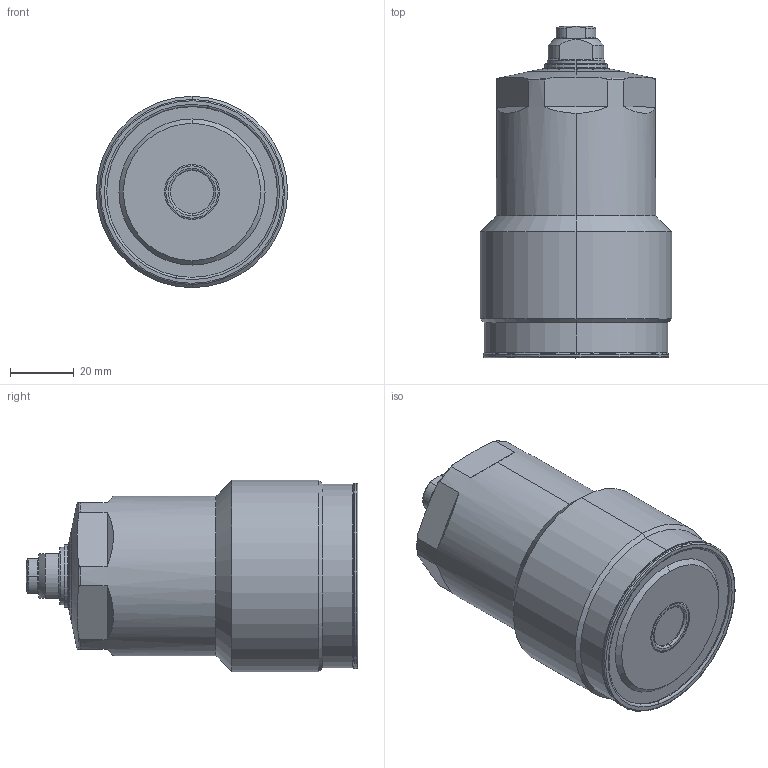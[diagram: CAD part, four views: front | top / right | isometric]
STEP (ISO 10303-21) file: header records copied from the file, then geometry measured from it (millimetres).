
FILE_DESCRIPTION(/* description */ (''),/* implementation_level */ '2;1');
FILE_NAME(/* name */ 'TNL60.stp',/* time_stamp */ '2026-02-04T14:20:00+08:00',/* author */ (''),/* organization */ (''),/* preprocessor_version */ 'ST-DEVELOPER v16.7',/* originating_system */ 'SIEMENS PLM Software NX 12.0',/* authorisation */ '');
FILE_SCHEMA (('AUTOMOTIVE_DESIGN { 1 0 10303 214 3 1 1 1 }'));
Length unit declared in the file: millimetre
Products named in the file (7): XLC-M10_Oring; XLC-M10_contactbolt; TNL60-04; TNL60-01; TNL60-02; TNL60-03; WNC6003-x_step
Assembly tree (6 placements, depth 3):
  WNC6003-x_step
    TNL60-02
    TNL60-03
      XLC-M10_contactbolt
      XLC-M10_Oring
    TNL60-01
    TNL60-04
Bounding box: 60 x 104 x 60 mm (x, y, z)
Volume: 207997.8 mm3; surface area: 24309 mm2
Topology: 5 solids, 5 shells, 154 faces, 342 edges, 208 vertices
Faces by surface type: torus 50, cylinder 41, plane 37, cone 24, sphere 2
Entity records: 4775 total; most frequent: CARTESIAN_POINT 1113, DIRECTION 827, ORIENTED_EDGE 684, AXIS2_PLACEMENT_3D 368, EDGE_CURVE 342, VERTEX_POINT 208, CIRCLE 207, EDGE_LOOP 170
